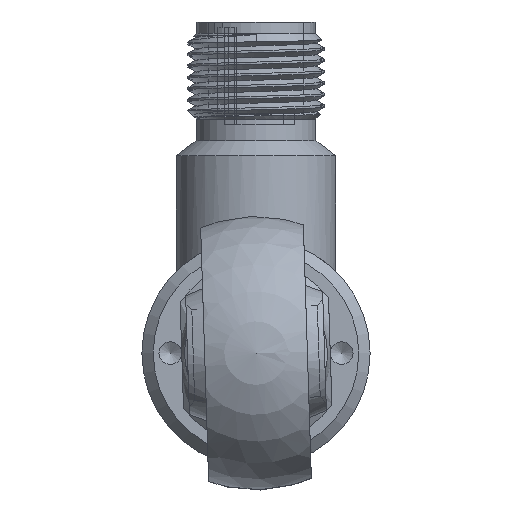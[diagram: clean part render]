
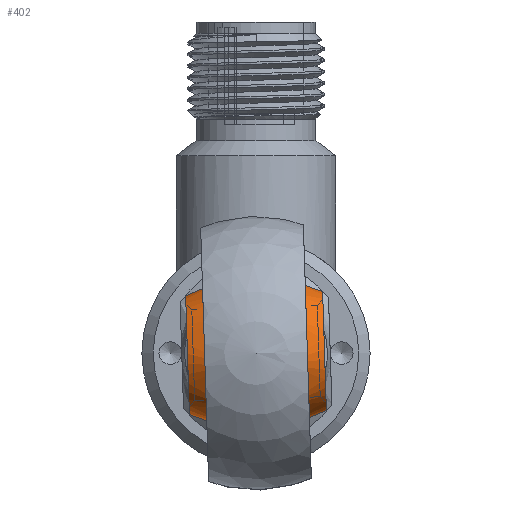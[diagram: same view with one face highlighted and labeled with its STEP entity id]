
A CAD part, left-side view. The second image highlights one B-rep face of the part: STEP entity #402.
In plain terms, the highlighted free-form (B-spline) face has degree [3, 3] with [4, 7] control points.
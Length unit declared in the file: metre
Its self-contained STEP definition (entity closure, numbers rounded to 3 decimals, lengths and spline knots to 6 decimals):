
#402 = ADVANCED_FACE( '', ( #716, #717 ), #718, .T. );
#716 = FACE_OUTER_BOUND( '', #2223, .T. );
#717 = FACE_OUTER_BOUND( '', #2224, .T. );
#718 = ( B_SPLINE_SURFACE( 3, 3, ( ( #2226, #2227, #2228, #2229, #2230, #2231, #2232 ), ( #2233, #2234, #2235, #2236, #2237, #2238, #2239 ), ( #2240, #2241, #2242, #2243, #2244, #2245, #2246 ), ( #2247, #2248, #2249, #2250, #2251, #2252, #2253 ) ), .UNSPECIFIED., .F., .T., .F. )B_SPLINE_SURFACE_WITH_KNOTS( ( 4, 4 ), ( 4, 3, 4 ), ( 0., 6.283185 ), ( -0.582914, 0., 0.582914 ), .UNSPECIFIED. )RATIONAL_B_SPLINE_SURFACE( ( ( 1., 0.333, 0.333, 1., 0.333, 0.333, 1. ), ( 0.89, 0.297, 0.297, 0.89, 0.297, 0.297, 0.89 ), ( 0.89, 0.297, 0.297, 0.89, 0.297, 0.297, 0.89 ), ( 1., 0.333, 0.333, 1., 0.333, 0.333, 1. ) ) )BOUNDED_SURFACE(  )REPRESENTATION_ITEM( '' )GEOMETRIC_REPRESENTATION_ITEM(  )SURFACE(  ) );
#2223 = EDGE_LOOP( '', ( #2916 ) );
#2224 = EDGE_LOOP( '', ( #2917 ) );
#2226 = CARTESIAN_POINT( '', ( -0.942857, 0.006021, 0.00058 ) );
#2227 = CARTESIAN_POINT( '', ( -0.941318, 0.005697, -0.0097 ) );
#2228 = CARTESIAN_POINT( '', ( -0.951603, 0.005648, -0.011239 ) );
#2229 = CARTESIAN_POINT( '', ( -0.953143, 0.005973, -0.000959 ) );
#2230 = CARTESIAN_POINT( '', ( -0.954682, 0.006297, 0.009322 ) );
#2231 = CARTESIAN_POINT( '', ( -0.944397, 0.006346, 0.01086 ) );
#2232 = CARTESIAN_POINT( '', ( -0.942857, 0.006021, 0.00058 ) );
#2233 = CARTESIAN_POINT( '', ( -0.94041, 0.002282, 0.001065 ) );
#2234 = CARTESIAN_POINT( '', ( -0.938138, 0.001803, -0.014107 ) );
#2235 = CARTESIAN_POINT( '', ( -0.953318, 0.001732, -0.016378 ) );
#2236 = CARTESIAN_POINT( '', ( -0.95559, 0.00221, -0.001206 ) );
#2237 = CARTESIAN_POINT( '', ( -0.957862, 0.002689, 0.013965 ) );
#2238 = CARTESIAN_POINT( '', ( -0.942682, 0.002761, 0.016236 ) );
#2239 = CARTESIAN_POINT( '', ( -0.94041, 0.002282, 0.001065 ) );
#2240 = CARTESIAN_POINT( '', ( -0.94041, -0.00221, 0.001206 ) );
#2241 = CARTESIAN_POINT( '', ( -0.938138, -0.002689, -0.013965 ) );
#2242 = CARTESIAN_POINT( '', ( -0.953318, -0.002761, -0.016236 ) );
#2243 = CARTESIAN_POINT( '', ( -0.95559, -0.002282, -0.001065 ) );
#2244 = CARTESIAN_POINT( '', ( -0.957862, -0.001803, 0.014107 ) );
#2245 = CARTESIAN_POINT( '', ( -0.942682, -0.001732, 0.016378 ) );
#2246 = CARTESIAN_POINT( '', ( -0.94041, -0.00221, 0.001206 ) );
#2247 = CARTESIAN_POINT( '', ( -0.942857, -0.005973, 0.000959 ) );
#2248 = CARTESIAN_POINT( '', ( -0.941318, -0.006297, -0.009322 ) );
#2249 = CARTESIAN_POINT( '', ( -0.951603, -0.006346, -0.01086 ) );
#2250 = CARTESIAN_POINT( '', ( -0.953143, -0.006021, -0.00058 ) );
#2251 = CARTESIAN_POINT( '', ( -0.954682, -0.005697, 0.0097 ) );
#2252 = CARTESIAN_POINT( '', ( -0.944397, -0.005648, 0.011239 ) );
#2253 = CARTESIAN_POINT( '', ( -0.942857, -0.005973, 0.000959 ) );
#2916 = ORIENTED_EDGE( '', *, *, #3603, .F. );
#2917 = ORIENTED_EDGE( '', *, *, #3604, .T. );
#3603 = EDGE_CURVE( '', #4186, #4186, #4187, .T. );
#3604 = EDGE_CURVE( '', #4188, #4188, #4189, .T. );
#4186 = VERTEX_POINT( '', #7998 );
#4187 = CIRCLE( '', #7999, 0.0052 );
#4188 = VERTEX_POINT( '', #8000 );
#4189 = CIRCLE( '', #8001, 0.0052 );
#7998 = CARTESIAN_POINT( '', ( -0.942857, 0.006021, 0.00058 ) );
#7999 = AXIS2_PLACEMENT_3D( '', #8366, #8367, #8368 );
#8000 = CARTESIAN_POINT( '', ( -0.942857, -0.005973, 0.000959 ) );
#8001 = AXIS2_PLACEMENT_3D( '', #8369, #8370, #8371 );
#8366 = CARTESIAN_POINT( '', ( -0.948, 0.005997, -0.000189 ) );
#8367 = DIRECTION( '', ( 0., 1., -0.032 ) );
#8368 = DIRECTION( '', ( 0.989, 0.005, 0.148 ) );
#8369 = CARTESIAN_POINT( '', ( -0.948, -0.005997, 0.000189 ) );
#8370 = DIRECTION( '', ( 0., 1., -0.032 ) );
#8371 = DIRECTION( '', ( 0.989, 0.005, 0.148 ) );
